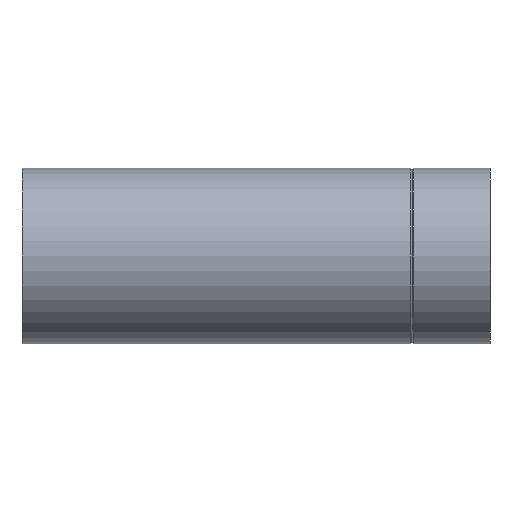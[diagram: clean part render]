
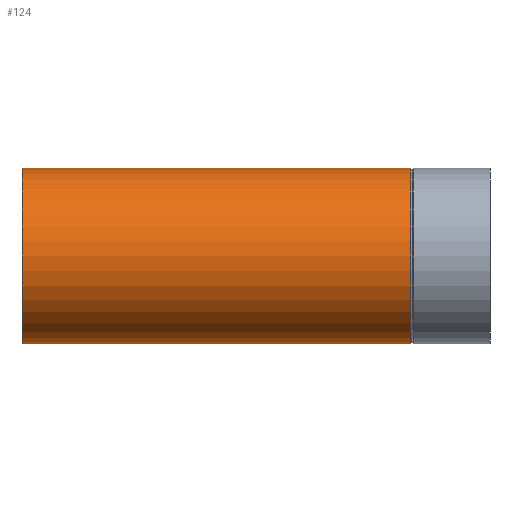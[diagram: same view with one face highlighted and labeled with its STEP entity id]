
A CAD part, left-side view. The second image highlights one B-rep face of the part: STEP entity #124.
In plain terms, the highlighted cylindrical face has radius 45 mm (diameter 90 mm), a full revolution.
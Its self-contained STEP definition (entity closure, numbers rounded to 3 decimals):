
#16=B_SPLINE_CURVE_WITH_KNOTS($,3,(#205,#206,#207,#208,#209,#210,#211,#212,
#213,#214,#215,#216,#217,#218,#219,#220,#221,#222,#223,#224,#225,#226,#227,
#228,#229,#230,#231,#232,#233,#234,#235,#236,#237,#238,#239,#240,#241,#242,
#243,#244,#245,#246,#247,#248,#249,#250,#251,#252,#253,#254,#255,#256,#257,
#258,#259,#260,#261,#262,#263,#264,#265,#266,#267,#268,#269,#270,#271,#272,
#273,#274),.UNSPECIFIED.,.T.,.F.,(4,2,2,2,2,2,2,2,2,2,2,2,2,2,2,2,2,2,2,
2,2,2,2,2,2,2,2,2,2,2,2,2,2,2,4),(0.,1.339,2.678,4.152,
5.627,6.555,7.483,8.031,8.305,
8.578,8.852,9.126,9.673,10.602,
11.53,13.004,14.479,15.818,17.157,
17.921,18.685,19.449,20.213,20.943,
21.673,22.402,23.132,23.862,24.592,
25.322,26.052,26.816,27.58,28.344,
29.108),.UNSPECIFIED.);
#18=CYLINDRICAL_SURFACE($,#140,45.);
#25=FACE_BOUND($,#49,.T.);
#26=FACE_BOUND($,#50,.T.);
#27=FACE_BOUND($,#51,.T.);
#49=EDGE_LOOP($,(#102));
#50=EDGE_LOOP($,(#103));
#51=EDGE_LOOP($,(#104));
#69=CIRCLE($,#139,45.);
#70=CIRCLE($,#141,45.);
#78=VERTEX_POINT($,#201);
#79=VERTEX_POINT($,#204);
#80=VERTEX_POINT($,#275);
#89=EDGE_CURVE($,#78,#78,#69,.T.);
#90=EDGE_CURVE($,#79,#79,#16,.T.);
#91=EDGE_CURVE($,#80,#80,#70,.T.);
#102=ORIENTED_EDGE($,*,*,#90,.T.);
#103=ORIENTED_EDGE($,*,*,#91,.T.);
#104=ORIENTED_EDGE($,*,*,#89,.T.);
#124=ADVANCED_FACE($,(#25,#26,#27),#18,.T.);
#139=AXIS2_PLACEMENT_3D($,#202,#164,#165);
#140=AXIS2_PLACEMENT_3D($,#203,#166,#167);
#141=AXIS2_PLACEMENT_3D($,#276,#168,#169);
#164=DIRECTION('center_axis',(0.,1.,0.));
#165=DIRECTION('ref_axis',(1.,0.,0.));
#166=DIRECTION('center_axis',(0.,1.,0.));
#167=DIRECTION('ref_axis',(1.,0.,0.));
#168=DIRECTION('center_axis',(0.,-1.,0.));
#169=DIRECTION('ref_axis',(1.,0.,0.));
#201=CARTESIAN_POINT('',(45.,40.52,0.));
#202=CARTESIAN_POINT('Origin',(0.,40.52,0.));
#203=CARTESIAN_POINT('Origin',(0.,0.,0.));
#204=CARTESIAN_POINT('',(24.875,104.875,37.5));
#205=CARTESIAN_POINT('Ctrl Pts',(24.875,104.875,37.5));
#206=CARTESIAN_POINT('Ctrl Pts',(24.875,109.338,37.5));
#207=CARTESIAN_POINT('Ctrl Pts',(25.489,114.145,37.102));
#208=CARTESIAN_POINT('Ctrl Pts',(27.302,123.62,35.789));
#209=CARTESIAN_POINT('Ctrl Pts',(28.488,128.289,34.869));
#210=CARTESIAN_POINT('Ctrl Pts',(30.933,137.086,32.727));
#211=CARTESIAN_POINT('Ctrl Pts',(32.461,142.053,31.257));
#212=CARTESIAN_POINT('Ctrl Pts',(35.597,151.687,27.633));
#213=CARTESIAN_POINT('Ctrl Pts',(37.2,156.354,25.473));
#214=CARTESIAN_POINT('Ctrl Pts',(39.521,162.965,21.591));
#215=CARTESIAN_POINT('Ctrl Pts',(40.486,165.671,19.774));
#216=CARTESIAN_POINT('Ctrl Pts',(42.273,170.62,15.593));
#217=CARTESIAN_POINT('Ctrl Pts',(43.092,172.858,13.223));
#218=CARTESIAN_POINT('Ctrl Pts',(44.074,175.529,9.211));
#219=CARTESIAN_POINT('Ctrl Pts',(44.415,176.453,7.468));
#220=CARTESIAN_POINT('Ctrl Pts',(44.764,177.395,4.699));
#221=CARTESIAN_POINT('Ctrl Pts',(44.853,177.638,3.751));
#222=CARTESIAN_POINT('Ctrl Pts',(44.972,177.957,1.857));
#223=CARTESIAN_POINT('Ctrl Pts',(45.,178.033,0.913));
#224=CARTESIAN_POINT('Ctrl Pts',(45.,178.033,-0.913));
#225=CARTESIAN_POINT('Ctrl Pts',(44.972,177.957,-1.857));
#226=CARTESIAN_POINT('Ctrl Pts',(44.853,177.638,-3.751));
#227=CARTESIAN_POINT('Ctrl Pts',(44.764,177.395,-4.699));
#228=CARTESIAN_POINT('Ctrl Pts',(44.415,176.453,-7.468));
#229=CARTESIAN_POINT('Ctrl Pts',(44.074,175.529,-9.211));
#230=CARTESIAN_POINT('Ctrl Pts',(43.092,172.858,-13.223));
#231=CARTESIAN_POINT('Ctrl Pts',(42.273,170.62,-15.593));
#232=CARTESIAN_POINT('Ctrl Pts',(40.486,165.671,-19.774));
#233=CARTESIAN_POINT('Ctrl Pts',(39.521,162.965,-21.591));
#234=CARTESIAN_POINT('Ctrl Pts',(37.2,156.354,-25.473));
#235=CARTESIAN_POINT('Ctrl Pts',(35.597,151.687,-27.633));
#236=CARTESIAN_POINT('Ctrl Pts',(32.461,142.053,-31.257));
#237=CARTESIAN_POINT('Ctrl Pts',(30.933,137.086,-32.727));
#238=CARTESIAN_POINT('Ctrl Pts',(28.488,128.289,-34.869));
#239=CARTESIAN_POINT('Ctrl Pts',(27.302,123.62,-35.789));
#240=CARTESIAN_POINT('Ctrl Pts',(25.489,114.145,-37.102));
#241=CARTESIAN_POINT('Ctrl Pts',(24.875,109.338,-37.5));
#242=CARTESIAN_POINT('Ctrl Pts',(24.875,102.328,-37.5));
#243=CARTESIAN_POINT('Ctrl Pts',(25.077,99.685,-37.37));
#244=CARTESIAN_POINT('Ctrl Pts',(26.089,94.572,-36.671));
#245=CARTESIAN_POINT('Ctrl Pts',(26.907,92.105,-36.095));
#246=CARTESIAN_POINT('Ctrl Pts',(29.044,87.638,-34.399));
#247=CARTESIAN_POINT('Ctrl Pts',(30.362,85.618,-33.271));
#248=CARTESIAN_POINT('Ctrl Pts',(33.128,82.088,-30.518));
#249=CARTESIAN_POINT('Ctrl Pts',(34.568,80.573,-28.894));
#250=CARTESIAN_POINT('Ctrl Pts',(37.166,78.075,-25.458));
#251=CARTESIAN_POINT('Ctrl Pts',(38.417,76.993,-23.552));
#252=CARTESIAN_POINT('Ctrl Pts',(40.678,75.141,-19.388));
#253=CARTESIAN_POINT('Ctrl Pts',(41.688,74.37,-17.128));
#254=CARTESIAN_POINT('Ctrl Pts',(43.33,73.149,-12.4));
#255=CARTESIAN_POINT('Ctrl Pts',(43.964,72.697,-9.928));
#256=CARTESIAN_POINT('Ctrl Pts',(44.799,72.106,-4.945));
#257=CARTESIAN_POINT('Ctrl Pts',(45.,71.967,-2.433));
#258=CARTESIAN_POINT('Ctrl Pts',(45.,71.967,2.433));
#259=CARTESIAN_POINT('Ctrl Pts',(44.799,72.106,4.945));
#260=CARTESIAN_POINT('Ctrl Pts',(43.964,72.697,9.928));
#261=CARTESIAN_POINT('Ctrl Pts',(43.33,73.149,12.4));
#262=CARTESIAN_POINT('Ctrl Pts',(41.688,74.37,17.128));
#263=CARTESIAN_POINT('Ctrl Pts',(40.678,75.141,19.388));
#264=CARTESIAN_POINT('Ctrl Pts',(38.417,76.993,23.552));
#265=CARTESIAN_POINT('Ctrl Pts',(37.166,78.075,25.458));
#266=CARTESIAN_POINT('Ctrl Pts',(34.568,80.573,28.894));
#267=CARTESIAN_POINT('Ctrl Pts',(33.128,82.088,30.518));
#268=CARTESIAN_POINT('Ctrl Pts',(30.362,85.618,33.271));
#269=CARTESIAN_POINT('Ctrl Pts',(29.044,87.638,34.399));
#270=CARTESIAN_POINT('Ctrl Pts',(26.907,92.105,36.095));
#271=CARTESIAN_POINT('Ctrl Pts',(26.089,94.572,36.671));
#272=CARTESIAN_POINT('Ctrl Pts',(25.077,99.685,37.37));
#273=CARTESIAN_POINT('Ctrl Pts',(24.875,102.328,37.5));
#274=CARTESIAN_POINT('Ctrl Pts',(24.875,104.875,37.5));
#275=CARTESIAN_POINT('',(-45.,240.,0.));
#276=CARTESIAN_POINT('Origin',(0.,240.,0.));
